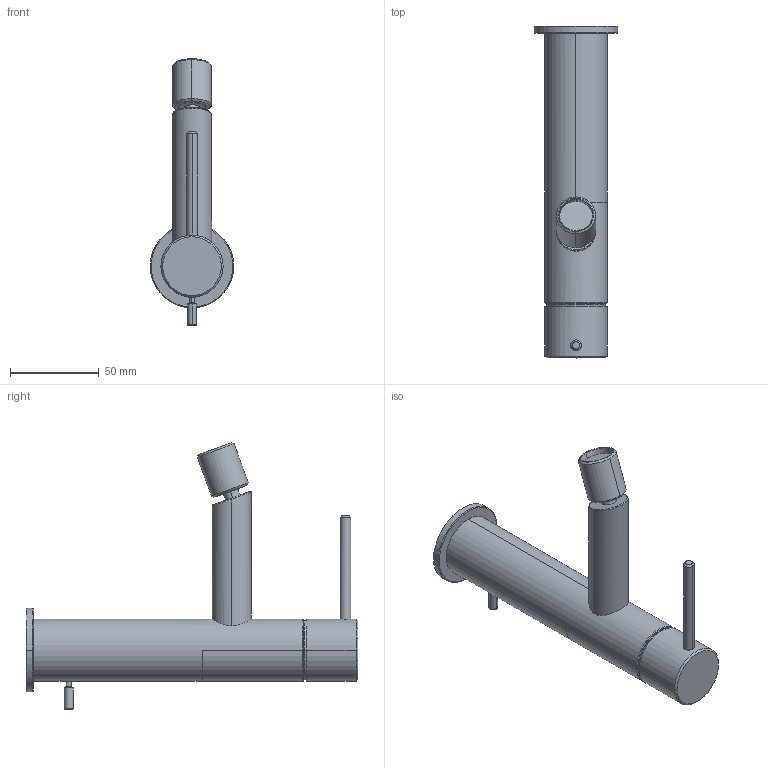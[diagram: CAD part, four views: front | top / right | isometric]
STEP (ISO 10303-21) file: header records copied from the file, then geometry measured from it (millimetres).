
FILE_DESCRIPTION((''),'2;1');
FILE_NAME('ONO_BIDET_ASM_SW0002','2023-10-16T14:22:55',('YY993'),(''),'CREO PARAMETRIC BY PTC INC, 2022244','CREO PARAMETRIC BY PTC INC, 2022244','');
FILE_SCHEMA(('CONFIG_CONTROL_DESIGN'));
Length unit declared in the file: millimetre
Products named in the file (1): ONO_BIDET_ASM_SW0002
Bounding box: 47 x 186.7 x 149.98 mm (x, y, z)
Volume: 219361.9 mm3; surface area: 33022 mm2
Topology: 1 solids, 1 shells, 68 faces, 155 edges, 100 vertices
Faces by surface type: cylinder 25, plane 15, torus 12, cone 12, bspline 2, sphere 2
Entity records: 2707 total; most frequent: CARTESIAN_POINT 1085, DIRECTION 361, ORIENTED_EDGE 310, AXIS2_PLACEMENT_3D 158, EDGE_CURVE 155, VERTEX_POINT 100, CIRCLE 92, EDGE_LOOP 79
